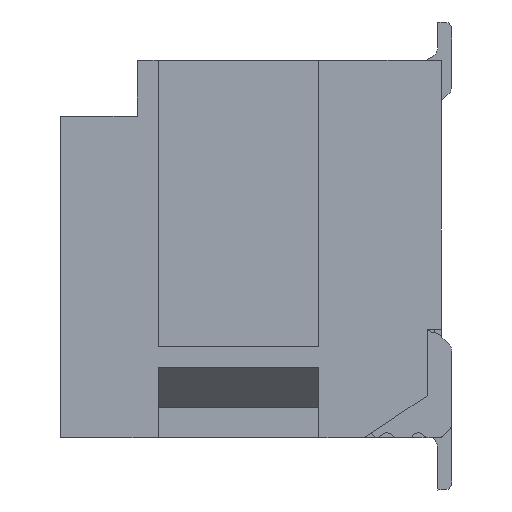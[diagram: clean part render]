
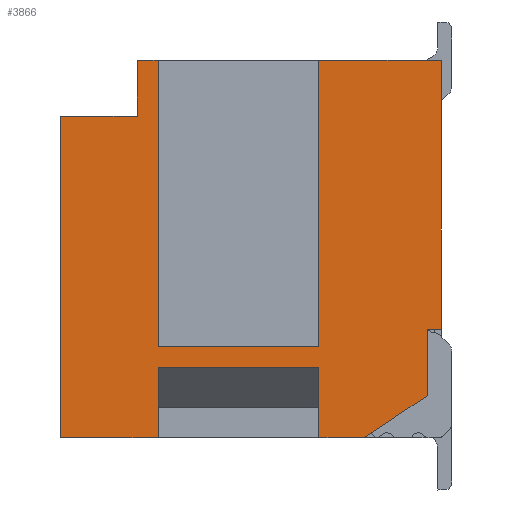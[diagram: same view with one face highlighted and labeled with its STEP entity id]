
A CAD part, left-side view. The second image highlights one B-rep face of the part: STEP entity #3866.
In plain terms, the highlighted planar face has unit normal (-1, 0, 0).
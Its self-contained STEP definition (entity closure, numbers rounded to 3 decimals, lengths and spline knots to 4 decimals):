
#379=PLANE('',#98037);
#3866=ADVANCED_FACE('',(#9932),#379,.F.);
#9932=FACE_OUTER_BOUND('',#14585,.T.);
#14585=EDGE_LOOP('',(#43755,#43756,#43757,#43758,#43759,#43760,#43761,#43762,
#43763,#43764,#43765,#43766,#43767,#43768,#43769,#43770,#43771));
#19496=LINE('',#132559,#31134);
#19501=LINE('',#132570,#31139);
#19505=LINE('',#132579,#31143);
#19515=LINE('',#132599,#31153);
#19521=LINE('',#132611,#31159);
#19609=LINE('',#132793,#31247);
#19656=LINE('',#132883,#31294);
#19662=LINE('',#132895,#31300);
#19663=LINE('',#132897,#31301);
#19714=LINE('',#132999,#31352);
#19716=LINE('',#133003,#31354);
#19717=LINE('',#133004,#31355);
#19718=LINE('',#133006,#31356);
#19719=LINE('',#133007,#31357);
#19720=LINE('',#133008,#31358);
#19721=LINE('',#133010,#31359);
#19722=LINE('',#133012,#31360);
#31134=VECTOR('',#106051,1.);
#31139=VECTOR('',#106058,1.);
#31143=VECTOR('',#106064,1.);
#31153=VECTOR('',#106084,1.);
#31159=VECTOR('',#106094,1.);
#31247=VECTOR('',#106240,1.);
#31294=VECTOR('',#106315,1.);
#31300=VECTOR('',#106325,1.);
#31301=VECTOR('',#106328,1.);
#31352=VECTOR('',#106421,1.);
#31354=VECTOR('',#106425,1.);
#31355=VECTOR('',#106426,1.);
#31356=VECTOR('',#106427,1.);
#31357=VECTOR('',#106428,1.);
#31358=VECTOR('',#106429,1.);
#31359=VECTOR('',#106430,1.);
#31360=VECTOR('',#106431,1.);
#43755=ORIENTED_EDGE('',*,*,#81115,.T.);
#43756=ORIENTED_EDGE('',*,*,#81272,.F.);
#43757=ORIENTED_EDGE('',*,*,#81326,.T.);
#43758=ORIENTED_EDGE('',*,*,#81273,.T.);
#43759=ORIENTED_EDGE('',*,*,#81111,.T.);
#43760=ORIENTED_EDGE('',*,*,#81324,.T.);
#43761=ORIENTED_EDGE('',*,*,#81327,.T.);
#43762=ORIENTED_EDGE('',*,*,#81328,.F.);
#43763=ORIENTED_EDGE('',*,*,#81125,.F.);
#43764=ORIENTED_EDGE('',*,*,#81106,.T.);
#43765=ORIENTED_EDGE('',*,*,#81131,.T.);
#43766=ORIENTED_EDGE('',*,*,#81329,.F.);
#43767=ORIENTED_EDGE('',*,*,#81219,.F.);
#43768=ORIENTED_EDGE('',*,*,#81330,.F.);
#43769=ORIENTED_EDGE('',*,*,#81331,.F.);
#43770=ORIENTED_EDGE('',*,*,#81332,.T.);
#43771=ORIENTED_EDGE('',*,*,#81266,.T.);
#71475=VERTEX_POINT('',#132560);
#71476=VERTEX_POINT('',#132561);
#71479=VERTEX_POINT('',#132569);
#71480=VERTEX_POINT('',#132571);
#71483=VERTEX_POINT('',#132578);
#71484=VERTEX_POINT('',#132580);
#71489=VERTEX_POINT('',#132600);
#71492=VERTEX_POINT('',#132610);
#71557=VERTEX_POINT('',#132792);
#71558=VERTEX_POINT('',#132794);
#71587=VERTEX_POINT('',#132884);
#71590=VERTEX_POINT('',#132894);
#71591=VERTEX_POINT('',#132898);
#71621=VERTEX_POINT('',#133000);
#71622=VERTEX_POINT('',#133005);
#71623=VERTEX_POINT('',#133009);
#71624=VERTEX_POINT('',#133011);
#81106=EDGE_CURVE('',#71475,#71476,#19496,.T.);
#81111=EDGE_CURVE('',#71480,#71479,#19501,.T.);
#81115=EDGE_CURVE('',#71484,#71483,#19505,.T.);
#81125=EDGE_CURVE('',#71475,#71489,#19515,.T.);
#81131=EDGE_CURVE('',#71476,#71492,#19521,.T.);
#81219=EDGE_CURVE('',#71557,#71558,#19609,.T.);
#81266=EDGE_CURVE('',#71587,#71484,#19656,.T.);
#81272=EDGE_CURVE('',#71590,#71483,#19662,.T.);
#81273=EDGE_CURVE('',#71591,#71480,#19663,.T.);
#81324=EDGE_CURVE('',#71479,#71621,#19714,.T.);
#81326=EDGE_CURVE('',#71590,#71591,#19716,.T.);
#81327=EDGE_CURVE('',#71621,#71622,#19717,.T.);
#81328=EDGE_CURVE('',#71489,#71622,#19718,.T.);
#81329=EDGE_CURVE('',#71558,#71492,#19719,.T.);
#81330=EDGE_CURVE('',#71623,#71557,#19720,.T.);
#81331=EDGE_CURVE('',#71624,#71623,#19721,.T.);
#81332=EDGE_CURVE('',#71624,#71587,#19722,.T.);
#98037=AXIS2_PLACEMENT_3D('',#133013,#106432,#106433);
#106051=DIRECTION('',(0.,1.,0.));
#106058=DIRECTION('',(0.,0.,1.));
#106064=DIRECTION('',(0.,-1.,0.));
#106084=DIRECTION('',(0.,0.,1.));
#106094=DIRECTION('',(0.,0.,1.));
#106240=DIRECTION('',(0.,0.,1.));
#106315=DIRECTION('',(0.,0.,1.));
#106325=DIRECTION('',(0.,0.,1.));
#106328=DIRECTION('',(0.,-0.831,0.557));
#106421=DIRECTION('',(0.,-1.,0.));
#106425=DIRECTION('',(0.,-1.,0.));
#106426=DIRECTION('',(0.,0.,1.));
#106427=DIRECTION('',(0.,-1.,0.));
#106428=DIRECTION('',(0.,-1.,0.));
#106429=DIRECTION('',(0.,-1.,0.));
#106430=DIRECTION('',(0.,0.,1.));
#106431=DIRECTION('',(0.,-1.,0.));
#106432=DIRECTION('',(1.,0.,0.));
#106433=DIRECTION('',(0.,0.,-1.));
#132559=CARTESIAN_POINT('',(16.2201,5.35,1.3));
#132560=CARTESIAN_POINT('',(16.2201,5.35,1.3));
#132561=CARTESIAN_POINT('',(16.2201,7.65,1.3));
#132569=CARTESIAN_POINT('',(16.2201,3.8,1.55));
#132570=CARTESIAN_POINT('',(16.2201,3.8,0.6));
#132571=CARTESIAN_POINT('',(16.2201,3.8,0.6));
#132578=CARTESIAN_POINT('',(16.2201,5.35,1.));
#132579=CARTESIAN_POINT('',(16.2201,4.01,1.));
#132580=CARTESIAN_POINT('',(16.2201,7.65,1.));
#132599=CARTESIAN_POINT('',(16.2201,5.35,0.5));
#132600=CARTESIAN_POINT('',(16.2201,5.35,5.4));
#132610=CARTESIAN_POINT('',(16.2201,7.65,5.4));
#132611=CARTESIAN_POINT('',(16.2201,7.65,4.05));
#132792=CARTESIAN_POINT('',(16.2201,7.95,4.6));
#132793=CARTESIAN_POINT('',(16.2201,7.95,4.05));
#132794=CARTESIAN_POINT('',(16.2201,7.95,5.4));
#132883=CARTESIAN_POINT('',(16.2201,7.65,4.05));
#132884=CARTESIAN_POINT('',(16.2201,7.65,0.));
#132894=CARTESIAN_POINT('',(16.2201,5.35,0.));
#132895=CARTESIAN_POINT('',(16.2201,5.35,0.5));
#132897=CARTESIAN_POINT('',(16.2201,4.6954,0.));
#132898=CARTESIAN_POINT('',(16.2201,4.6954,0.));
#132999=CARTESIAN_POINT('',(16.2201,3.8,1.55));
#133000=CARTESIAN_POINT('',(16.2201,3.6,1.55));
#133003=CARTESIAN_POINT('',(16.2201,6.5,0.));
#133004=CARTESIAN_POINT('',(16.2201,3.6,0.));
#133005=CARTESIAN_POINT('',(16.2201,3.6,5.4));
#133006=CARTESIAN_POINT('',(16.2201,4.01,5.4));
#133007=CARTESIAN_POINT('',(16.2201,4.01,5.4));
#133008=CARTESIAN_POINT('',(16.2201,4.01,4.6));
#133009=CARTESIAN_POINT('',(16.2201,9.05,4.6));
#133010=CARTESIAN_POINT('',(16.2201,9.05,4.05));
#133011=CARTESIAN_POINT('',(16.2201,9.05,0.));
#133012=CARTESIAN_POINT('',(16.2201,6.5,0.));
#133013=CARTESIAN_POINT('',(16.2201,4.01,4.05));
